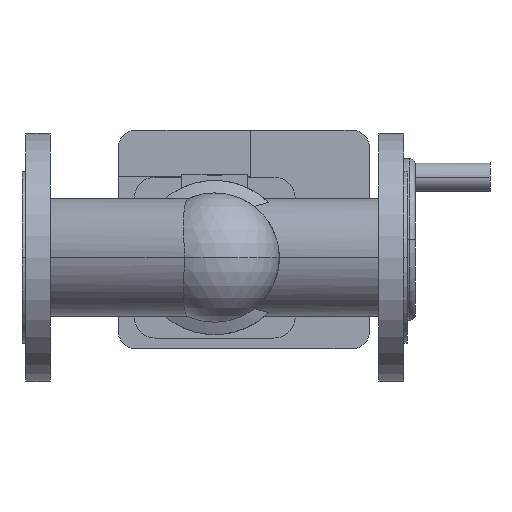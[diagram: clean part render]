
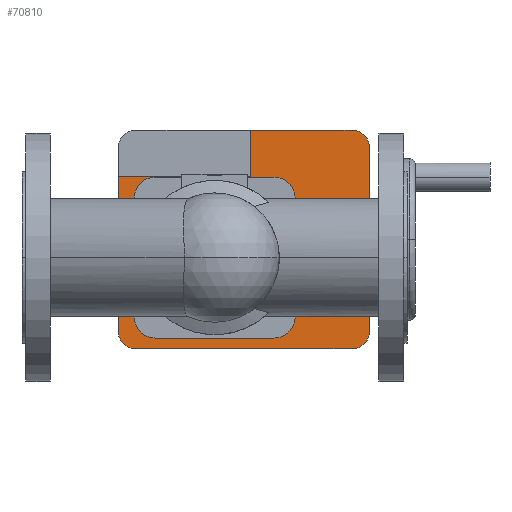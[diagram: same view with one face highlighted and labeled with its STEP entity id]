
A CAD part, front view. The second image highlights one B-rep face of the part: STEP entity #70810.
In plain terms, the highlighted planar face has unit normal (0, -1, 0).
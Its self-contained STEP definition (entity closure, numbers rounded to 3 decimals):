
#66910=CARTESIAN_POINT('',(265.5,653.7,102.5));
#66920=VERTEX_POINT('',#66910);
#66950=CARTESIAN_POINT('',(91.5,653.7,102.5));
#66960=DIRECTION('',(1.,0.,0.));
#66970=VECTOR('',#66960,1.);
#66980=LINE('',#66950,#66970);
#66990=CARTESIAN_POINT('',(184.,653.7,102.5));
#67000=VERTEX_POINT('',#66990);
#67010=EDGE_CURVE('',#67000,#66920,#66980,.T.);
#68680=CARTESIAN_POINT('',(91.5,653.7,-73.5));
#68690=VERTEX_POINT('',#68680);
#68720=CARTESIAN_POINT('',(265.5,653.7,-73.5));
#68730=DIRECTION('',(-1.,0.,0.));
#68740=VECTOR('',#68730,1.);
#68750=LINE('',#68720,#68740);
#68760=CARTESIAN_POINT('',(265.5,653.7,-73.5));
#68770=VERTEX_POINT('',#68760);
#68780=EDGE_CURVE('',#68770,#68690,#68750,.T.);
#69060=CARTESIAN_POINT('',(77.5,653.7,-59.5));
#69070=VERTEX_POINT('',#69060);
#69100=CARTESIAN_POINT('',(91.5,653.7,-59.5));
#69110=DIRECTION('',(0.,1.,0.));
#69120=DIRECTION('',(0.,0.,-1.));
#69130=AXIS2_PLACEMENT_3D('',#69100,#69110,#69120);
#69140=CIRCLE('',#69130,14.);
#69150=EDGE_CURVE('',#68690,#69070,#69140,.T.);
#69530=CARTESIAN_POINT('',(155.,653.7,0.));
#69540=DIRECTION('',(0.,1.,0.));
#69550=DIRECTION('',(0.,0.,1.));
#69560=AXIS2_PLACEMENT_3D('',#69530,#69540,#69550);
#69570=PLANE('',#69560);
#69580=CARTESIAN_POINT('',(207.2,653.7,0.));
#69590=DIRECTION('',(0.,1.,0.));
#69600=DIRECTION('',(-0.906,0.,-0.422));
#69610=AXIS2_PLACEMENT_3D('',#69580,#69590,#69600);
#69620=CIRCLE('',#69610,116.);
#69630=CARTESIAN_POINT('',(102.058,653.7,-49.002));
#69640=VERTEX_POINT('',#69630);
#69650=CARTESIAN_POINT('',(102.058,653.7,49.002));
#69660=VERTEX_POINT('',#69650);
#69670=EDGE_CURVE('',#69640,#69660,#69620,.T.);
#69680=ORIENTED_EDGE('',*,*,#69670,.T.);
#69690=CARTESIAN_POINT('',(110.216,653.7,-45.2));
#69700=DIRECTION('',(0.,1.,0.));
#69710=DIRECTION('',(0.,0.,-1.));
#69720=AXIS2_PLACEMENT_3D('',#69690,#69700,#69710);
#69730=CIRCLE('',#69720,9.);
#69740=CARTESIAN_POINT('',(110.216,653.7,-54.2));
#69750=VERTEX_POINT('',#69740);
#69760=EDGE_CURVE('',#69750,#69640,#69730,.T.);
#69770=ORIENTED_EDGE('',*,*,#69760,.T.);
#69780=CARTESIAN_POINT('',(177.392,653.7,-54.2));
#69790=DIRECTION('',(-1.,0.,0.));
#69800=VECTOR('',#69790,1.);
#69810=LINE('',#69780,#69800);
#69820=CARTESIAN_POINT('',(199.784,653.7,-54.2));
#69830=VERTEX_POINT('',#69820);
#69840=EDGE_CURVE('',#69830,#69750,#69810,.T.);
#69850=ORIENTED_EDGE('',*,*,#69840,.T.);
#69860=CARTESIAN_POINT('',(199.784,653.7,-45.2));
#69870=DIRECTION('',(0.,1.,0.));
#69880=DIRECTION('',(0.906,0.,-0.422));
#69890=AXIS2_PLACEMENT_3D('',#69860,#69870,#69880);
#69900=CIRCLE('',#69890,9.);
#69910=CARTESIAN_POINT('',(207.942,653.7,-49.002));
#69920=VERTEX_POINT('',#69910);
#69930=EDGE_CURVE('',#69920,#69830,#69900,.T.);
#69940=ORIENTED_EDGE('',*,*,#69930,.T.);
#69950=CARTESIAN_POINT('',(102.8,653.7,0.));
#69960=DIRECTION('',(0.,1.,0.));
#69970=DIRECTION('',(0.906,0.,0.422));
#69980=AXIS2_PLACEMENT_3D('',#69950,#69960,#69970);
#69990=CIRCLE('',#69980,116.);
#70000=CARTESIAN_POINT('',(207.942,653.7,49.002));
#70010=VERTEX_POINT('',#70000);
#70020=EDGE_CURVE('',#70010,#69920,#69990,.T.);
#70030=ORIENTED_EDGE('',*,*,#70020,.T.);
#70040=CARTESIAN_POINT('',(199.784,653.7,45.2));
#70050=DIRECTION('',(0.,1.,0.));
#70060=DIRECTION('',(0.,0.,1.));
#70070=AXIS2_PLACEMENT_3D('',#70040,#70050,#70060);
#70080=CIRCLE('',#70070,9.);
#70090=CARTESIAN_POINT('',(199.784,653.7,54.2));
#70100=VERTEX_POINT('',#70090);
#70110=EDGE_CURVE('',#70100,#70010,#70080,.T.);
#70120=ORIENTED_EDGE('',*,*,#70110,.T.);
#70130=CARTESIAN_POINT('',(132.608,653.7,54.2));
#70140=DIRECTION('',(1.,0.,0.));
#70150=VECTOR('',#70140,1.);
#70160=LINE('',#70130,#70150);
#70170=CARTESIAN_POINT('',(110.216,653.7,54.2));
#70180=VERTEX_POINT('',#70170);
#70190=EDGE_CURVE('',#70180,#70100,#70160,.T.);
#70200=ORIENTED_EDGE('',*,*,#70190,.T.);
#70210=CARTESIAN_POINT('',(110.216,653.7,45.2));
#70220=DIRECTION('',(0.,1.,0.));
#70230=DIRECTION('',(-0.906,0.,0.422));
#70240=AXIS2_PLACEMENT_3D('',#70210,#70220,#70230);
#70250=CIRCLE('',#70240,9.);
#70260=EDGE_CURVE('',#69660,#70180,#70250,.T.);
#70270=ORIENTED_EDGE('',*,*,#70260,.T.);
#70280=EDGE_LOOP('',(#70270,#70200,#70120,#70030,#69940,#69850,#69770,
#69680));
#70290=FACE_BOUND('',#70280,.T.);
#70300=CARTESIAN_POINT('',(184.,653.7,32.5));
#70310=DIRECTION('',(0.,0.,-1.));
#70320=VECTOR('',#70310,1.);
#70330=LINE('',#70300,#70320);
#70340=CARTESIAN_POINT('',(184.,653.7,65.));
#70350=VERTEX_POINT('',#70340);
#70360=EDGE_CURVE('',#67000,#70350,#70330,.T.);
#70370=ORIENTED_EDGE('',*,*,#70360,.T.);
#70380=ORIENTED_EDGE('',*,*,#67010,.F.);
#70390=CARTESIAN_POINT('',(265.5,653.7,88.5));
#70400=DIRECTION('',(0.,1.,0.));
#70410=DIRECTION('',(0.,0.,1.));
#70420=AXIS2_PLACEMENT_3D('',#70390,#70400,#70410);
#70430=CIRCLE('',#70420,14.);
#70440=CARTESIAN_POINT('',(279.5,653.7,88.5));
#70450=VERTEX_POINT('',#70440);
#70460=EDGE_CURVE('',#66920,#70450,#70430,.T.);
#70470=ORIENTED_EDGE('',*,*,#70460,.F.);
#70480=CARTESIAN_POINT('',(279.5,653.7,88.5));
#70490=DIRECTION('',(0.,0.,-1.));
#70500=VECTOR('',#70490,1.);
#70510=LINE('',#70480,#70500);
#70520=CARTESIAN_POINT('',(279.5,653.7,-59.5));
#70530=VERTEX_POINT('',#70520);
#70540=EDGE_CURVE('',#70450,#70530,#70510,.T.);
#70550=ORIENTED_EDGE('',*,*,#70540,.F.);
#70560=CARTESIAN_POINT('',(265.5,653.7,-59.5));
#70570=DIRECTION('',(0.,1.,0.));
#70580=DIRECTION('',(1.,0.,0.));
#70590=AXIS2_PLACEMENT_3D('',#70560,#70570,#70580);
#70600=CIRCLE('',#70590,14.);
#70610=EDGE_CURVE('',#70530,#68770,#70600,.T.);
#70620=ORIENTED_EDGE('',*,*,#70610,.F.);
#70630=ORIENTED_EDGE('',*,*,#68780,.F.);
#70640=ORIENTED_EDGE('',*,*,#69150,.F.);
#70650=CARTESIAN_POINT('',(77.5,653.7,-59.5));
#70660=DIRECTION('',(0.,0.,1.));
#70670=VECTOR('',#70660,1.);
#70680=LINE('',#70650,#70670);
#70690=CARTESIAN_POINT('',(77.5,653.7,65.));
#70700=VERTEX_POINT('',#70690);
#70710=EDGE_CURVE('',#69070,#70700,#70680,.T.);
#70720=ORIENTED_EDGE('',*,*,#70710,.F.);
#70730=CARTESIAN_POINT('',(115.75,653.7,65.));
#70740=DIRECTION('',(-1.,0.,0.));
#70750=VECTOR('',#70740,1.);
#70760=LINE('',#70730,#70750);
#70770=EDGE_CURVE('',#70350,#70700,#70760,.T.);
#70780=ORIENTED_EDGE('',*,*,#70770,.T.);
#70790=EDGE_LOOP('',(#70780,#70720,#70640,#70630,#70620,#70550,#70470,
#70380,#70370));
#70800=FACE_OUTER_BOUND('',#70790,.T.);
#70810=ADVANCED_FACE('',(#70290,#70800),#69570,.F.);
